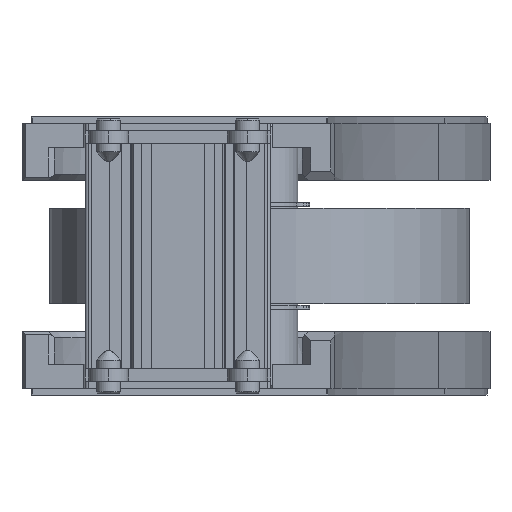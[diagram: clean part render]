
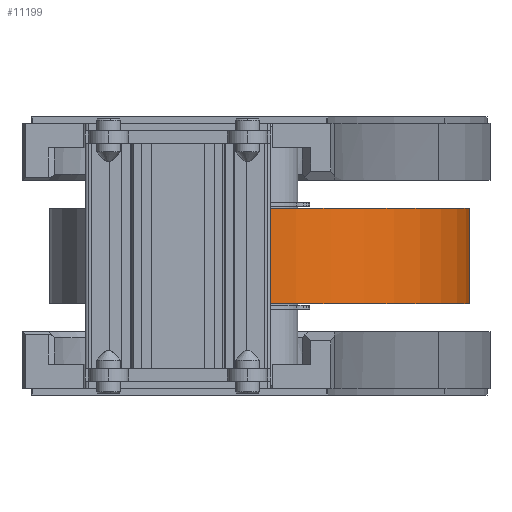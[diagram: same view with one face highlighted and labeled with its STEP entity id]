
A CAD part, left-side view. The second image highlights one B-rep face of the part: STEP entity #11199.
In plain terms, the highlighted cylindrical face has radius 68 mm (diameter 136 mm), a partial arc.
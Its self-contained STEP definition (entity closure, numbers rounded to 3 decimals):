
#528 = DIRECTION ( 'NONE',  ( 0., 0., 1. ) ) ;
#1048 = CARTESIAN_POINT ( 'NONE',  ( 0., 0., 0. ) ) ;
#1095 = DIRECTION ( 'NONE',  ( 0., 0., -1. ) ) ;
#1305 = CARTESIAN_POINT ( 'NONE',  ( -68., 0., 31. ) ) ;
#1894 = DIRECTION ( 'NONE',  ( 0., 0., 1. ) ) ;
#1930 = CARTESIAN_POINT ( 'NONE',  ( 68., 0., 0. ) ) ;
#2365 = CARTESIAN_POINT ( 'NONE',  ( 0., 0., 31. ) ) ;
#2431 = DIRECTION ( 'NONE',  ( 1., 0., 0. ) ) ;
#2502 = AXIS2_PLACEMENT_3D ( 'NONE', #1048, #1894, #2431 ) ;
#2728 = EDGE_LOOP ( 'NONE', ( #10732, #5926, #4594, #12795 ) ) ;
#2850 = CIRCLE ( 'NONE', #14109, 68. ) ;
#2879 = DIRECTION ( 'NONE',  ( 0., 0., -1. ) ) ;
#4110 = VERTEX_POINT ( 'NONE', #8186 ) ;
#4594 = ORIENTED_EDGE ( 'NONE', *, *, #7076, .T. ) ;
#4661 = VECTOR ( 'NONE', #13135, 1000. ) ;
#5926 = ORIENTED_EDGE ( 'NONE', *, *, #12116, .F. ) ;
#6683 = CYLINDRICAL_SURFACE ( 'NONE', #14197, 68. ) ;
#7076 = EDGE_CURVE ( 'NONE', #7266, #8427, #10990, .T. ) ;
#7266 = VERTEX_POINT ( 'NONE', #1305 ) ;
#7320 = VERTEX_POINT ( 'NONE', #1930 ) ;
#7322 = EDGE_CURVE ( 'NONE', #8427, #7320, #7421, .T. ) ;
#7421 = CIRCLE ( 'NONE', #2502, 68. ) ;
#7935 = CARTESIAN_POINT ( 'NONE',  ( 68., 0., 31. ) ) ;
#8122 = CARTESIAN_POINT ( 'NONE',  ( 0., 0., 31. ) ) ;
#8186 = CARTESIAN_POINT ( 'NONE',  ( 68., 0., 31. ) ) ;
#8332 = LINE ( 'NONE', #7935, #15952 ) ;
#8399 = EDGE_CURVE ( 'NONE', #4110, #7320, #8332, .T. ) ;
#8427 = VERTEX_POINT ( 'NONE', #13088 ) ;
#9410 = DIRECTION ( 'NONE',  ( 1., 0., 0. ) ) ;
#9924 = DIRECTION ( 'NONE',  ( -1., 0., 0. ) ) ;
#10732 = ORIENTED_EDGE ( 'NONE', *, *, #8399, .F. ) ;
#10990 = LINE ( 'NONE', #11715, #4661 ) ;
#11199 = ADVANCED_FACE ( 'NONE', ( #13463 ), #6683, .T. ) ;
#11715 = CARTESIAN_POINT ( 'NONE',  ( -68., 0., 31. ) ) ;
#12116 = EDGE_CURVE ( 'NONE', #7266, #4110, #2850, .T. ) ;
#12795 = ORIENTED_EDGE ( 'NONE', *, *, #7322, .T. ) ;
#13088 = CARTESIAN_POINT ( 'NONE',  ( -68., 0., 0. ) ) ;
#13135 = DIRECTION ( 'NONE',  ( 0., 0., -1. ) ) ;
#13463 = FACE_OUTER_BOUND ( 'NONE', #2728, .T. ) ;
#14109 = AXIS2_PLACEMENT_3D ( 'NONE', #8122, #528, #9410 ) ;
#14197 = AXIS2_PLACEMENT_3D ( 'NONE', #2365, #1095, #9924 ) ;
#15952 = VECTOR ( 'NONE', #2879, 1000. ) ;
